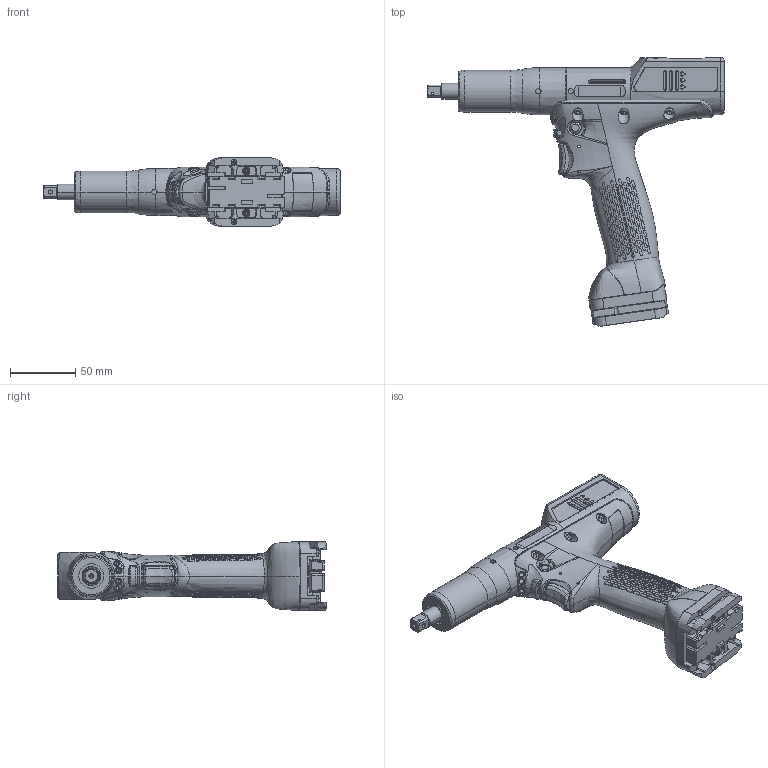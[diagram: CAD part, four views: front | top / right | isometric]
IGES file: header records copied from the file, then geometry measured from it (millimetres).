
Start section:  PTC IGES file: 6151659030_without_battery.igs
Global section: file name: 6151659030_without_battery.igs; native system: Creo Parametric by Parametric Technology Corporation; preprocessor: 2014200; author: greextsd; organization: Unknown; date: 20141017.143650; units: millimetre
Bounding box: 226.95 x 205.54 x 52 mm (x, y, z)
Volume: 360997.6 mm3; surface area: 105274.9 mm2
Topology: 7 solids, 7 shells, 2990 faces, 7927 edges, 5078 vertices
Faces by surface type: bspline 1632, revolution 1338, extrusion 20
